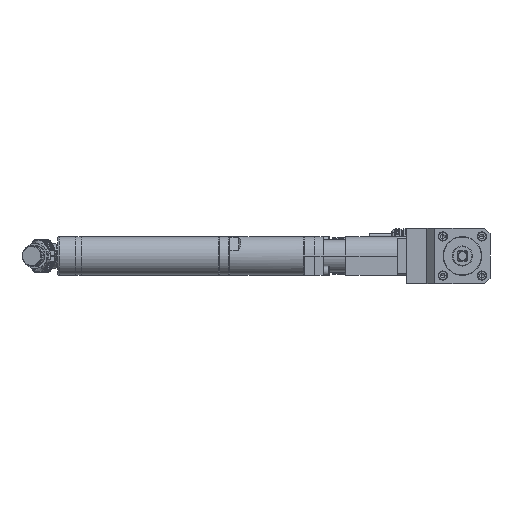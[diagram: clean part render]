
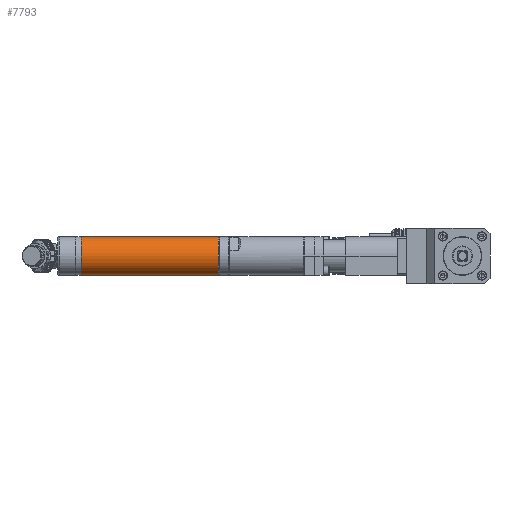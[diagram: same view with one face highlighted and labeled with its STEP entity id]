
A CAD part, front view. The second image highlights one B-rep face of the part: STEP entity #7793.
In plain terms, the highlighted cylindrical face has radius 21 mm (diameter 42 mm), a partial arc.
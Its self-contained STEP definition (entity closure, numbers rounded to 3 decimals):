
#500 = CIRCLE ( 'NONE', #114902, 21. ) ;
#5387 = LINE ( 'NONE', #100393, #152719 ) ;
#6045 = VECTOR ( 'NONE', #83644, 1000. ) ;
#7793 = ADVANCED_FACE ( 'NONE', ( #31639 ), #152379, .T. ) ;
#9688 = ORIENTED_EDGE ( 'NONE', *, *, #69237, .T. ) ;
#10665 = VERTEX_POINT ( 'NONE', #107645 ) ;
#11620 = CARTESIAN_POINT ( 'NONE',  ( -265., 38.5, -21. ) ) ;
#13083 = VERTEX_POINT ( 'NONE', #149962 ) ;
#14018 = DIRECTION ( 'NONE',  ( 1., 0., 0. ) ) ;
#14619 = DIRECTION ( 'NONE',  ( 0., 0., -1. ) ) ;
#27221 = CARTESIAN_POINT ( 'NONE',  ( -265., 38.5, 0. ) ) ;
#31627 = VERTEX_POINT ( 'NONE', #150689 ) ;
#31639 = FACE_OUTER_BOUND ( 'NONE', #73318, .T. ) ;
#33355 = AXIS2_PLACEMENT_3D ( 'NONE', #131458, #108080, #14619 ) ;
#33463 = ORIENTED_EDGE ( 'NONE', *, *, #84903, .F. ) ;
#49023 = DIRECTION ( 'NONE',  ( -1., 0., 0. ) ) ;
#51330 = DIRECTION ( 'NONE',  ( 0., 0., -1. ) ) ;
#52270 = VERTEX_POINT ( 'NONE', #11620 ) ;
#55787 = DIRECTION ( 'NONE',  ( 0., 0., -1. ) ) ;
#69237 = EDGE_CURVE ( 'NONE', #31627, #52270, #5387, .T. ) ;
#72745 = LINE ( 'NONE', #144433, #6045 ) ;
#73318 = EDGE_LOOP ( 'NONE', ( #33463, #139939, #9688, #128199 ) ) ;
#80630 = CARTESIAN_POINT ( 'NONE',  ( -250.809, 38.5, 0. ) ) ;
#83644 = DIRECTION ( 'NONE',  ( 1., 0., 0. ) ) ;
#84903 = EDGE_CURVE ( 'NONE', #13083, #10665, #72745, .T. ) ;
#99527 = AXIS2_PLACEMENT_3D ( 'NONE', #80630, #128154, #55787 ) ;
#100393 = CARTESIAN_POINT ( 'NONE',  ( -250.809, 38.5, -21. ) ) ;
#100485 = CIRCLE ( 'NONE', #33355, 21. ) ;
#107645 = CARTESIAN_POINT ( 'NONE',  ( -265., 38.5, 21. ) ) ;
#108080 = DIRECTION ( 'NONE',  ( 1., 0., 0. ) ) ;
#113000 = EDGE_CURVE ( 'NONE', #13083, #31627, #100485, .T. ) ;
#114902 = AXIS2_PLACEMENT_3D ( 'NONE', #27221, #49023, #51330 ) ;
#128154 = DIRECTION ( 'NONE',  ( 1., 0., 0. ) ) ;
#128199 = ORIENTED_EDGE ( 'NONE', *, *, #153197, .T. ) ;
#131458 = CARTESIAN_POINT ( 'NONE',  ( -413.5, 38.5, 0. ) ) ;
#139939 = ORIENTED_EDGE ( 'NONE', *, *, #113000, .T. ) ;
#144433 = CARTESIAN_POINT ( 'NONE',  ( -250.809, 38.5, 21. ) ) ;
#149962 = CARTESIAN_POINT ( 'NONE',  ( -413.5, 38.5, 21. ) ) ;
#150689 = CARTESIAN_POINT ( 'NONE',  ( -413.5, 38.5, -21. ) ) ;
#152379 = CYLINDRICAL_SURFACE ( 'NONE', #99527, 21. ) ;
#152719 = VECTOR ( 'NONE', #14018, 1000. ) ;
#153197 = EDGE_CURVE ( 'NONE', #52270, #10665, #500, .T. ) ;
